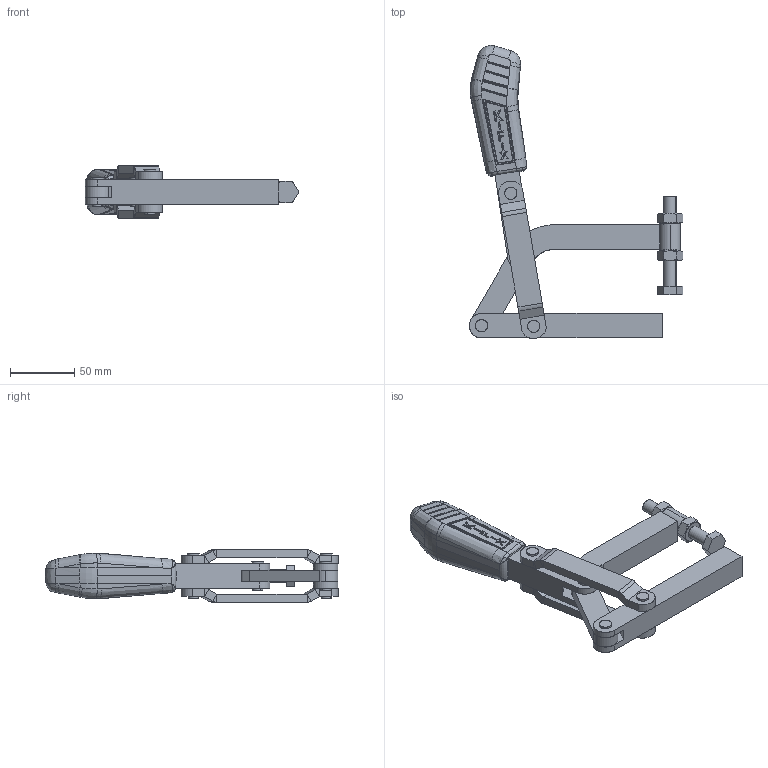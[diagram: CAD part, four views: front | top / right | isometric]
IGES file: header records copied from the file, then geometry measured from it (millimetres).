
Start section: SolidWorks IGES file using analytic representation for surfaces
Global section: file name: C:\Projetos\Grampos\KF-MP\KF-05 MP\KF-05 MP.IGS; native system: SolidWorks 2014; preprocessor: SolidWorks 2014; author: Ricardo; date: 150717.090312; units: millimetre
Bounding box: 165.77 x 227.82 x 40.75 mm (x, y, z)
Surface area: 81872.6 mm2 (no closed solid volume)
Topology: 0 solids, 0 shells, 741 faces, 8632 edges, 8602 vertices
Faces by surface type: bspline 508, revolution 233
